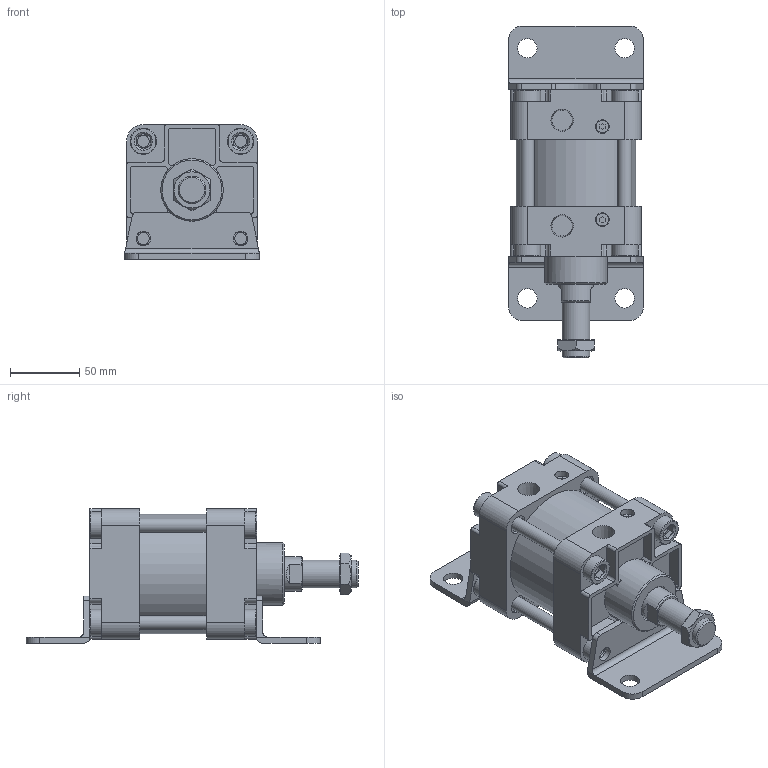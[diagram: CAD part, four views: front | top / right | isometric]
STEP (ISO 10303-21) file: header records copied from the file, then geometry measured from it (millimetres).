
FILE_DESCRIPTION(/* description */ ('Unknown'),/* implementation_level */ '2;1');
FILE_NAME(/* name */ 'WA80-0-LB',/* time_stamp */ '2026-07-17T16:55:49+08:00',/* author */ ('Unknown'),/* organization */ ('Unknown'),/* preprocessor_version */ 'ST-DEVELOPER v16.7',/* originating_system */ 'DEX',/* authorisation */ $);
FILE_SCHEMA (('CONFIG_CONTROL_DESIGN'));
Length unit declared in the file: millimetre
Products named in the file (8): WA80-0-LB; WA80_前; WA80_後; WA80_心軸活; WA80_LB; WA80_T´U¤útionRefs; M20-1.5P-8_螺
Assembly tree (11 placements, depth 2):
  WA80-0-LB
    WA80_前
    WA80_後
    (unnamed)
    WA80_心軸活
    WA80_LB  x2
    WA80_T´U¤útionRefs  x4
    M20-1.5P-8_螺
Bounding box: 97 x 239 x 97 mm (x, y, z)
Volume: 928197.5 mm3; surface area: 200754.3 mm2
Topology: 11 solids, 11 shells, 417 faces, 1021 edges, 675 vertices
Faces by surface type: plane 241, cylinder 145, cone 23, torus 8
Full cylindrical faces by diameter (mm): 8.5 x8, 9 x2, 10 x6, 10.5 x4, 14 x16, 14.2 x4, 18.376 x1, 19 x8, 20 x1, 25 x2, 26 x1, 45 x1, 79.5 x1, 80 x3, 86 x1
Entity records: 10688 total; most frequent: CARTESIAN_POINT 1600, DIRECTION 1534, ORIENTED_EDGE 1384, EDGE_CURVE 692, AXIS2_PLACEMENT_3D 564, VERTEX_POINT 482, LINE 406, VECTOR 406
